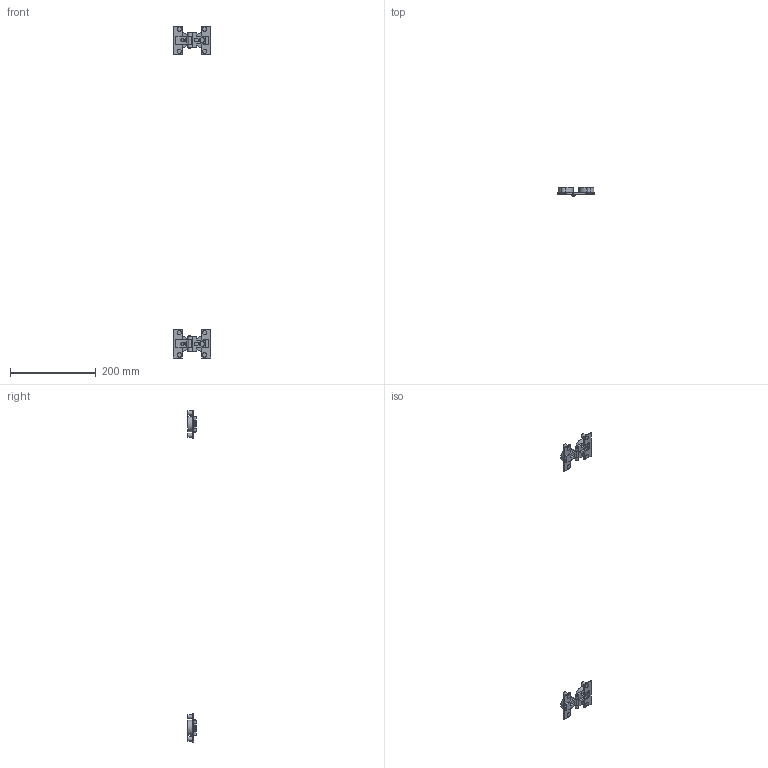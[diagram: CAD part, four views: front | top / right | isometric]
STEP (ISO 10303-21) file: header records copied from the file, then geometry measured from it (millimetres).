
FILE_DESCRIPTION( ( 'STEP AP214' ), '1' );
FILE_NAME( 'D:/Yug/2020/Sliding_&_Folding_Door_System/WingLine_L/Stay closed set & Centre Hinge/QC/9278788.stp', '2020-06-15T11:51:45', ( '' ), ( '' ), ' ', 'PARTsolutions', ' ' );
FILE_SCHEMA( ( 'AUTOMOTIVE_DESIGN { 1 0 10303 214 1 1 1 1 }' ) );
Length unit declared in the file: millimetre
Products named in the file (2): 9278788; _ 52095
Assembly tree (2 placements, depth 2):
  9278788
    _ 52095  x2
Bounding box: 88 x 20 x 773 mm (x, y, z)
Volume: 75056 mm3; surface area: 31297.2 mm2
Topology: 2 solids, 2 shells, 180 faces, 476 edges, 310 vertices
Faces by surface type: plane 130, cylinder 50
Full cylindrical faces by diameter (mm): 3 x8, 4.92 x4, 10 x16, 35 x4
Entity records: 3381 total; most frequent: DIRECTION 469, CARTESIAN_POINT 444, ORIENTED_EDGE 418, EDGE_CURVE 209, AXIS2_PLACEMENT_3D 167, VERTEX_POINT 142, LINE 135, VECTOR 135
